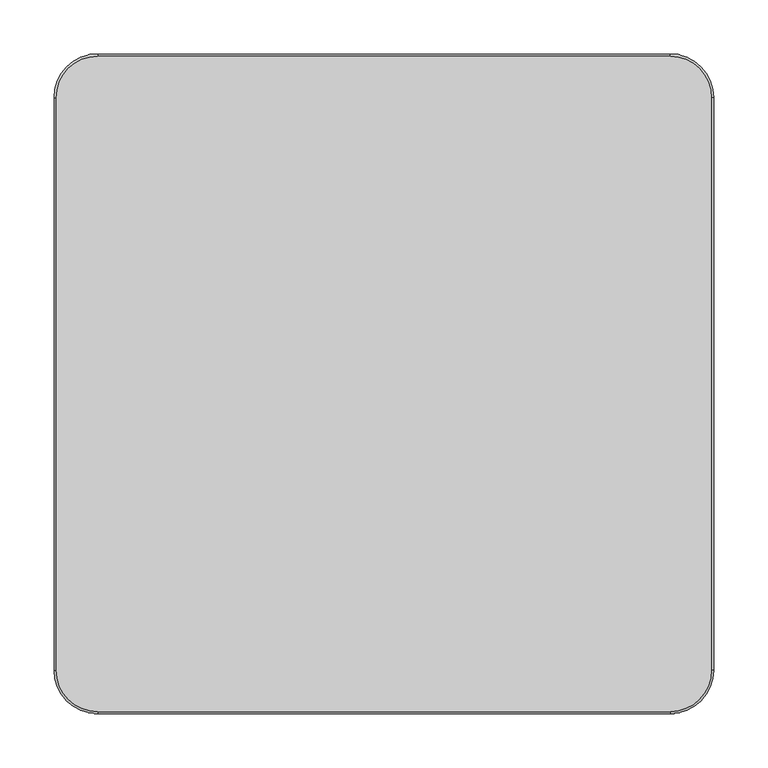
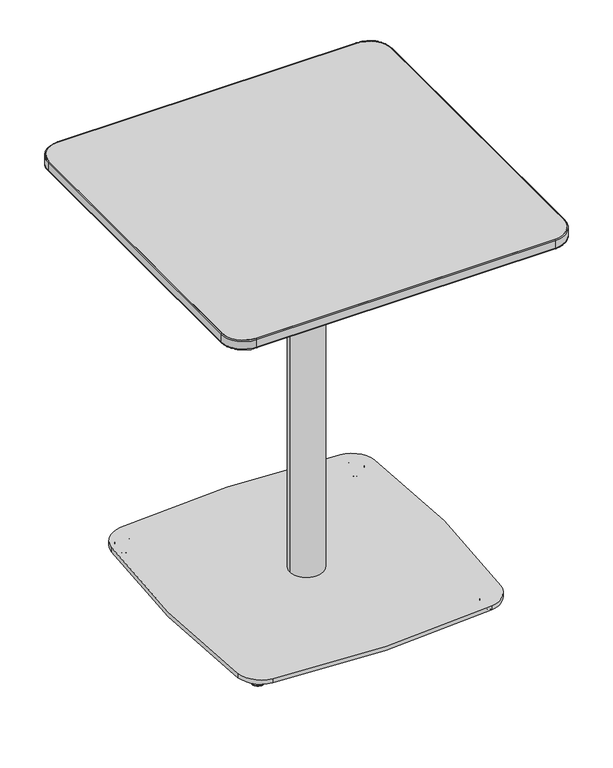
"""IFC4 building model written with IfcOpenShell, lengths in millimetres: furniture geometry, Coalesse_AM_Table_Conference_Montara650_WorkHeight_Square : 24D x 24W."""

from ifc_helpers import new_model, si_unit, point, frame, frame_2d, origin, place, context, project, spatial, polyline, circle_curve, ellipse_curve, trimmed, segment, composite_curve, outline, extrude, source, transform, mapped, element, save
from ifc_brep_helpers import plane_surface, cylinder_surface, revolved_surface, spline_surface, advanced_brep


def furniture_dcd677de(model_context):
    return source(origin(), model_context, "Body", "SolidModel", [
        advanced_brep(
        [(-199.4595416, -196.2537842, 0.0), (-209.8436061, -214.2395115, 0.0), (-204.6515739, -205.2466479, 0.0), (-199.0731063, -195.5844585, 0.5718943), (-210.2300415, -214.9088372, 0.5718943), (-197.4473977, -192.7686487, 11.2068005), (-211.8557501, -217.7246471, 11.2068005), (-197.7408617, -193.2769433, 11.9999882), (-211.5622861, -217.2163525, 11.9999882), (-204.6515739, -205.2466479, 11.9999882)],
        [
            (0, 1, circle_curve(frame((-204.6515739, -205.2466479, 0.0), z_axis=(0.0, 0.0, -1.0), x_axis=(-0.5000000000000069, -0.8660254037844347, 0.0)), 10.3840645)),
            (1, 2),
            (2, 0),
            (1, 0, circle_curve(frame((-204.6515739, -205.2466479, 0.0), z_axis=(0.0, 0.0, -1.0), x_axis=(-0.5000000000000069, -0.8660254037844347, 0.0)), 10.3840645)),
            (3, 4, circle_curve(frame((-204.6515739, -205.2466479, 0.5718943), z_axis=(0.0, 0.0, -1.0), x_axis=(-0.5000000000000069, -0.8660254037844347, 0.0)), 11.1569353)),
            (4, 1, circle_curve(frame((-209.8436061, -214.2395115, 0.8081846), z_axis=(0.8660254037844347, -0.5000000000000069, 0.0), x_axis=(-0.5000000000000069, -0.8660254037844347, 0.0)), 0.8081846)),
            (0, 3, circle_curve(frame((-199.4595416, -196.2537842, 0.8081846), z_axis=(0.866025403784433, -0.5000000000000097, 0.0), x_axis=(0.5000000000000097, 0.866025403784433, 0.0)), 0.8081846)),
            (4, 3, circle_curve(frame((-204.6515739, -205.2466479, 0.5718943), z_axis=(0.0, 0.0, -1.0), x_axis=(-0.5000000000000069, -0.8660254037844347, 0.0)), 11.1569353)),
            (5, 6, circle_curve(frame((-204.6515739, -205.2466479, 11.2068005), z_axis=(0.0, 0.0, -1.0), x_axis=(-0.5000000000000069, -0.8660254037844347, 0.0)), 14.4083524)),
            (6, 4),
            (3, 5),
            (6, 5, circle_curve(frame((-204.6515739, -205.2466479, 11.2068005), z_axis=(0.0, 0.0, -1.0), x_axis=(-0.5000000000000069, -0.8660254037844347, 0.0)), 14.4083524)),
            (7, 8, circle_curve(frame((-204.6515739, -205.2466479, 11.9999882), z_axis=(0.0, 0.0, -1.0), x_axis=(-0.5000000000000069, -0.8660254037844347, 0.0)), 13.8214243)),
            (8, 6, circle_curve(frame((-211.5622861, -217.2163525, 11.3862424), z_axis=(0.8660254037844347, -0.5000000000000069, 0.0), x_axis=(-0.5000000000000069, -0.8660254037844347, 0.0)), 0.6137458)),
            (5, 7, circle_curve(frame((-197.7408617, -193.2769433, 11.3862424), z_axis=(0.866025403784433, -0.5000000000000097, 0.0), x_axis=(0.5000000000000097, 0.866025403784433, 0.0)), 0.6137458)),
            (8, 7, circle_curve(frame((-204.6515739, -205.2466479, 11.9999882), z_axis=(0.0, 0.0, -1.0), x_axis=(-0.5000000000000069, -0.8660254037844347, 0.0)), 13.8214243)),
            (9, 8),
            (7, 9),
        ],
        [
            plane_surface(frame((-204.6515739, -205.2466479, 0.0), z_axis=(0.0, 0.0, -1.0), x_axis=(-0.5000000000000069, -0.8660254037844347, 0.0))),
            revolved_surface(trimmed(ellipse_curve(frame((-209.8436061, -214.2395115, 0.8081846), z_axis=(-0.8660254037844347, 0.5000000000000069, 0.0), x_axis=(-0.5000000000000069, -0.8660254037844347, 0.0)), 0.8081846, 0.8081846), [point((-209.8436061, -214.2395115, 0.0))], [point((-210.2300415, -214.9088372, 0.5718943))], True, "CARTESIAN"), (-204.6515739, -205.2466479, 12.2086845), (0.0, 0.0, 1.0)),
            revolved_surface(polyline([(-210.2300415, -214.9088372, 0.5718943), (-211.8557501, -217.7246471, 11.2068005)]), (-204.6515739, -205.2466479, 12.2086845), (0.0, 0.0, 1.0)),
            revolved_surface(trimmed(ellipse_curve(frame((-211.5622861, -217.2163525, 11.3862424), z_axis=(-0.8660254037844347, 0.5000000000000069, 0.0), x_axis=(-0.5000000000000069, -0.8660254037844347, 0.0)), 0.6137458, 0.6137458), [point((-211.8557501, -217.7246471, 11.2068005))], [point((-211.5622861, -217.2163525, 11.9999882))], True, "CARTESIAN"), (-204.6515739, -205.2466479, 12.2086845), (0.0, 0.0, 1.0)),
            plane_surface(frame((-204.6515739, -205.2466479, 11.9999882), z_axis=(0.0, 0.0, 1.0), x_axis=(-0.5000000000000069, -0.8660254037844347, 0.0))),
        ],
        [
            (0, [[1, 2, 3]]),
            (0, [[4, -3, -2]]),
            (1, [[5, 6, -1, 7]]),
            (1, [[8, -7, -4, -6]]),
            (2, [[9, 10, -5, 11]]),
            (2, [[12, -11, -8, -10]]),
            (3, [[13, 14, -9, 15]]),
            (3, [[16, -15, -12, -14]]),
            (4, [[17, -13, 18]]),
            (4, [[-18, -16, -17]]),
        ],
    ),
        advanced_brep(
        [(204.6515739, -205.2466479, 0.0), (209.8436061, -214.2395115, 0.0), (199.4595416, -196.2537842, 0.0), (210.2300415, -214.9088372, 0.5718943), (199.0731063, -195.5844585, 0.5718943), (211.8557501, -217.7246471, 11.2068005), (197.4473977, -192.7686487, 11.2068005), (211.5622861, -217.2163525, 11.9999882), (197.7408617, -193.2769433, 11.9999882), (204.6515739, -205.2466479, 11.9999882)],
        [
            (0, 1),
            (1, 2, circle_curve(frame((204.6515739, -205.2466479, 0.0), z_axis=(0.0, 0.0, -1.0), x_axis=(0.5000000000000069, -0.8660254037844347, 0.0)), 10.3840645)),
            (2, 0),
            (2, 1, circle_curve(frame((204.6515739, -205.2466479, 0.0), z_axis=(0.0, 0.0, -1.0), x_axis=(0.5000000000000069, -0.8660254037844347, 0.0)), 10.3840645)),
            (1, 3, circle_curve(frame((209.8436061, -214.2395115, 0.8081846), z_axis=(-0.8660254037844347, -0.5000000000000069, 0.0), x_axis=(0.5000000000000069, -0.8660254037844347, 0.0)), 0.8081846)),
            (3, 4, circle_curve(frame((204.6515739, -205.2466479, 0.5718943), z_axis=(0.0, 0.0, -1.0), x_axis=(0.5000000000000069, -0.8660254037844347, 0.0)), 11.1569353)),
            (4, 2, circle_curve(frame((199.4595416, -196.2537842, 0.8081846), z_axis=(-0.866025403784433, -0.5000000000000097, 0.0), x_axis=(-0.5000000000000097, 0.866025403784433, 0.0)), 0.8081846)),
            (4, 3, circle_curve(frame((204.6515739, -205.2466479, 0.5718943), z_axis=(0.0, 0.0, -1.0), x_axis=(0.5000000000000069, -0.8660254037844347, 0.0)), 11.1569353)),
            (3, 5),
            (5, 6, circle_curve(frame((204.6515739, -205.2466479, 11.2068005), z_axis=(0.0, 0.0, -1.0), x_axis=(0.5000000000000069, -0.8660254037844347, 0.0)), 14.4083524)),
            (6, 4),
            (6, 5, circle_curve(frame((204.6515739, -205.2466479, 11.2068005), z_axis=(0.0, 0.0, -1.0), x_axis=(0.5000000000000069, -0.8660254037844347, 0.0)), 14.4083524)),
            (5, 7, circle_curve(frame((211.5622861, -217.2163525, 11.3862424), z_axis=(-0.8660254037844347, -0.5000000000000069, 0.0), x_axis=(0.5000000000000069, -0.8660254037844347, 0.0)), 0.6137458)),
            (7, 8, circle_curve(frame((204.6515739, -205.2466479, 11.9999882), z_axis=(0.0, 0.0, -1.0), x_axis=(0.5000000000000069, -0.8660254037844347, 0.0)), 13.8214243)),
            (8, 6, circle_curve(frame((197.7408617, -193.2769433, 11.3862424), z_axis=(-0.866025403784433, -0.5000000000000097, 0.0), x_axis=(-0.5000000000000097, 0.866025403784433, 0.0)), 0.6137458)),
            (8, 7, circle_curve(frame((204.6515739, -205.2466479, 11.9999882), z_axis=(0.0, 0.0, -1.0), x_axis=(0.5000000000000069, -0.8660254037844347, 0.0)), 13.8214243)),
            (7, 9),
            (9, 8),
        ],
        [
            plane_surface(frame((204.6515739, -205.2466479, 0.0), z_axis=(0.0, 0.0, -1.0), x_axis=(0.5000000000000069, -0.8660254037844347, 0.0))),
            revolved_surface(trimmed(ellipse_curve(frame((209.8436061, -214.2395115, 0.8081846), z_axis=(0.8660254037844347, 0.5000000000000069, 0.0), x_axis=(0.5000000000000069, -0.8660254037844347, 0.0)), 0.8081846, 0.8081846), [point((210.2300415, -214.9088372, 0.5718943))], [point((209.8436061, -214.2395115, 0.0))], True, "CARTESIAN"), (204.6515739, -205.2466479, 12.2086845), (0.0, 0.0, -1.0)),
            revolved_surface(polyline([(211.8557501, -217.7246471, 11.2068005), (210.2300415, -214.9088372, 0.5718943)]), (204.6515739, -205.2466479, 12.2086845), (0.0, 0.0, -1.0)),
            revolved_surface(trimmed(ellipse_curve(frame((211.5622861, -217.2163525, 11.3862424), z_axis=(0.8660254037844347, 0.5000000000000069, 0.0), x_axis=(0.5000000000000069, -0.8660254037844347, 0.0)), 0.6137458, 0.6137458), [point((211.5622861, -217.2163525, 11.9999882))], [point((211.8557501, -217.7246471, 11.2068005))], True, "CARTESIAN"), (204.6515739, -205.2466479, 12.2086845), (0.0, 0.0, -1.0)),
            plane_surface(frame((204.6515739, -205.2466479, 11.9999882), z_axis=(0.0, 0.0, 1.0), x_axis=(0.5000000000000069, -0.8660254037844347, 0.0))),
        ],
        [
            (0, [[1, 2, 3]]),
            (0, [[-3, 4, -1]]),
            (1, [[-2, 5, 6, 7]]),
            (1, [[-4, -7, 8, -5]]),
            (2, [[-6, 9, 10, 11]]),
            (2, [[-8, -11, 12, -9]]),
            (3, [[-10, 13, 14, 15]]),
            (3, [[-12, -15, 16, -13]]),
            (4, [[-14, 17, 18]]),
            (4, [[-16, -18, -17]]),
        ],
    ),
        advanced_brep(
        [(199.4595416, 196.2537842, 0.0), (209.8436061, 214.2395115, 0.0), (204.6515739, 205.2466479, 0.0), (199.0731063, 195.5844585, 0.5718943), (210.2300415, 214.9088372, 0.5718943), (197.4473977, 192.7686487, 11.2068005), (211.8557501, 217.7246471, 11.2068005), (197.7408617, 193.2769433, 11.9999882), (211.5622861, 217.2163525, 11.9999882), (204.6515739, 205.2466479, 11.9999882)],
        [
            (0, 1, circle_curve(frame((204.6515739, 205.2466479, 0.0), z_axis=(0.0, 0.0, -1.0), x_axis=(0.5000000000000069, 0.8660254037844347, 0.0)), 10.3840645)),
            (1, 2),
            (2, 0),
            (1, 0, circle_curve(frame((204.6515739, 205.2466479, 0.0), z_axis=(0.0, 0.0, -1.0), x_axis=(0.5000000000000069, 0.8660254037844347, 0.0)), 10.3840645)),
            (3, 4, circle_curve(frame((204.6515739, 205.2466479, 0.5718943), z_axis=(0.0, 0.0, -1.0), x_axis=(0.5000000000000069, 0.8660254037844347, 0.0)), 11.1569353)),
            (4, 1, circle_curve(frame((209.8436061, 214.2395115, 0.8081846), z_axis=(-0.8660254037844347, 0.5000000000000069, 0.0), x_axis=(0.5000000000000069, 0.8660254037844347, 0.0)), 0.8081846)),
            (0, 3, circle_curve(frame((199.4595416, 196.2537842, 0.8081846), z_axis=(-0.866025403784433, 0.5000000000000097, 0.0), x_axis=(-0.5000000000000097, -0.866025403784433, 0.0)), 0.8081846)),
            (4, 3, circle_curve(frame((204.6515739, 205.2466479, 0.5718943), z_axis=(0.0, 0.0, -1.0), x_axis=(0.5000000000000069, 0.8660254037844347, 0.0)), 11.1569353)),
            (5, 6, circle_curve(frame((204.6515739, 205.2466479, 11.2068005), z_axis=(0.0, 0.0, -1.0), x_axis=(0.5000000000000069, 0.8660254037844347, 0.0)), 14.4083524)),
            (6, 4),
            (3, 5),
            (6, 5, circle_curve(frame((204.6515739, 205.2466479, 11.2068005), z_axis=(0.0, 0.0, -1.0), x_axis=(0.5000000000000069, 0.8660254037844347, 0.0)), 14.4083524)),
            (7, 8, circle_curve(frame((204.6515739, 205.2466479, 11.9999882), z_axis=(0.0, 0.0, -1.0), x_axis=(0.5000000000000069, 0.8660254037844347, 0.0)), 13.8214243)),
            (8, 6, circle_curve(frame((211.5622861, 217.2163525, 11.3862424), z_axis=(-0.8660254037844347, 0.5000000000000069, 0.0), x_axis=(0.5000000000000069, 0.8660254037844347, 0.0)), 0.6137458)),
            (5, 7, circle_curve(frame((197.7408617, 193.2769433, 11.3862424), z_axis=(-0.866025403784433, 0.5000000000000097, 0.0), x_axis=(-0.5000000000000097, -0.866025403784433, 0.0)), 0.6137458)),
            (8, 7, circle_curve(frame((204.6515739, 205.2466479, 11.9999882), z_axis=(0.0, 0.0, -1.0), x_axis=(0.5000000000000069, 0.8660254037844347, 0.0)), 13.8214243)),
            (9, 8),
            (7, 9),
        ],
        [
            plane_surface(frame((204.6515739, 205.2466479, 0.0), z_axis=(0.0, 0.0, -1.0), x_axis=(0.5000000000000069, 0.8660254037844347, 0.0))),
            revolved_surface(trimmed(ellipse_curve(frame((209.8436061, 214.2395115, 0.8081846), z_axis=(0.8660254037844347, -0.5000000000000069, 0.0), x_axis=(0.5000000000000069, 0.8660254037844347, 0.0)), 0.8081846, 0.8081846), [point((209.8436061, 214.2395115, 0.0))], [point((210.2300415, 214.9088372, 0.5718943))], True, "CARTESIAN"), (204.6515739, 205.2466479, 12.2086845), (0.0, 0.0, 1.0)),
            revolved_surface(polyline([(210.2300415, 214.9088372, 0.5718943), (211.8557501, 217.7246471, 11.2068005)]), (204.6515739, 205.2466479, 12.2086845), (0.0, 0.0, 1.0)),
            revolved_surface(trimmed(ellipse_curve(frame((211.5622861, 217.2163525, 11.3862424), z_axis=(0.8660254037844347, -0.5000000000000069, 0.0), x_axis=(0.5000000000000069, 0.8660254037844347, 0.0)), 0.6137458, 0.6137458), [point((211.8557501, 217.7246471, 11.2068005))], [point((211.5622861, 217.2163525, 11.9999882))], True, "CARTESIAN"), (204.6515739, 205.2466479, 12.2086845), (0.0, 0.0, 1.0)),
            plane_surface(frame((204.6515739, 205.2466479, 11.9999882), z_axis=(0.0, 0.0, 1.0), x_axis=(0.5000000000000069, 0.8660254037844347, 0.0))),
        ],
        [
            (0, [[1, 2, 3]]),
            (0, [[4, -3, -2]]),
            (1, [[5, 6, -1, 7]]),
            (1, [[8, -7, -4, -6]]),
            (2, [[9, 10, -5, 11]]),
            (2, [[12, -11, -8, -10]]),
            (3, [[13, 14, -9, 15]]),
            (3, [[16, -15, -12, -14]]),
            (4, [[17, -13, 18]]),
            (4, [[-18, -16, -17]]),
        ],
    ),
        extrude(outline(composite_curve([segment(trimmed(circle_curve(frame_2d((189.3188482, 188.9781952)), 44.45), [point((194.4241587, 233.1340363))], [point((233.4709717, 194.115557))], False, "CARTESIAN"), True, "CONTINUOUS"), segment(trimmed(circle_curve(frame_2d((-1397.5488879, 4.3367087)), 1642.0236885), [point((233.4709717, 194.115557))], [point((232.4883748, -193.704489))], False, "CARTESIAN"), True, "CONTINUOUS"), segment(trimmed(circle_curve(frame_2d((188.3628504, -188.3434633)), 44.45), [point((232.4883748, -193.704489))], [point((193.9003311, -232.4471911))], False, "CARTESIAN"), True, "CONTINUOUS"), segment(trimmed(circle_curve(frame_2d((-4.3367152, 1346.4283112)), 1591.2717488), [point((193.9003311, -232.4471911))], [point((-194.577927, -233.4305622))], False, "CARTESIAN"), True, "CONTINUOUS"), segment(trimmed(circle_curve(frame_2d((-189.263799, -189.2993652)), 44.45), [point((-194.577927, -233.4305622))], [point((-233.438325, -194.2403925))], False, "CARTESIAN"), True, "CONTINUOUS"), segment(trimmed(circle_curve(frame_2d((1503.1397991, 5.89e-05)), 1747.4074894), [point((-233.438325, -194.2403925))], [point((-233.4410299, 194.2163254))], False, "CARTESIAN"), True, "CONTINUOUS"), segment(trimmed(circle_curve(frame_2d((-189.2664351, 189.2759133)), 44.45), [point((-233.4410299, 194.2163254))], [point((-194.3022914, 233.4397294))], False, "CARTESIAN"), True, "CONTINUOUS"), segment(trimmed(circle_curve(frame_2d((-1.2702107, -1459.4269529)), 1703.8365498), [point((-194.3022914, 233.4397294))], [point((194.4241587, 233.1340363))], False, "CARTESIAN"), True, "CONTINUOUS")], self_intersect=False)), frame((0.0, 0.0, 11.999986), z_axis=(0.0, 0.0, 1.0), x_axis=(1.0, 0.0, 0.0)), (0.0, 0.0, 1.0), 8.0000105),
        advanced_brep(
        [(-204.6515739, 205.2466479, 0.0), (-209.8436061, 214.2395115, 0.0), (-199.4595416, 196.2537842, 0.0), (-210.2300415, 214.9088372, 0.5718943), (-199.0731063, 195.5844585, 0.5718943), (-211.8557501, 217.7246471, 11.2068005), (-197.4473977, 192.7686487, 11.2068005), (-211.5622861, 217.2163525, 11.9999882), (-197.7408617, 193.2769433, 11.9999882), (-204.6515739, 205.2466479, 11.9999882)],
        [
            (0, 1),
            (1, 2, circle_curve(frame((-204.6515739, 205.2466479, 0.0), z_axis=(0.0, 0.0, -1.0), x_axis=(-0.5000000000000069, 0.8660254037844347, 0.0)), 10.3840645)),
            (2, 0),
            (2, 1, circle_curve(frame((-204.6515739, 205.2466479, 0.0), z_axis=(0.0, 0.0, -1.0), x_axis=(-0.5000000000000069, 0.8660254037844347, 0.0)), 10.3840645)),
            (1, 3, circle_curve(frame((-209.8436061, 214.2395115, 0.8081846), z_axis=(0.8660254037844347, 0.5000000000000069, 0.0), x_axis=(-0.5000000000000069, 0.8660254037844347, 0.0)), 0.8081846)),
            (3, 4, circle_curve(frame((-204.6515739, 205.2466479, 0.5718943), z_axis=(0.0, 0.0, -1.0), x_axis=(-0.5000000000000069, 0.8660254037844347, 0.0)), 11.1569353)),
            (4, 2, circle_curve(frame((-199.4595416, 196.2537842, 0.8081846), z_axis=(0.866025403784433, 0.5000000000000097, 0.0), x_axis=(0.5000000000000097, -0.866025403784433, 0.0)), 0.8081846)),
            (4, 3, circle_curve(frame((-204.6515739, 205.2466479, 0.5718943), z_axis=(0.0, 0.0, -1.0), x_axis=(-0.5000000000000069, 0.8660254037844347, 0.0)), 11.1569353)),
            (3, 5),
            (5, 6, circle_curve(frame((-204.6515739, 205.2466479, 11.2068005), z_axis=(0.0, 0.0, -1.0), x_axis=(-0.5000000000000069, 0.8660254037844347, 0.0)), 14.4083524)),
            (6, 4),
            (6, 5, circle_curve(frame((-204.6515739, 205.2466479, 11.2068005), z_axis=(0.0, 0.0, -1.0), x_axis=(-0.5000000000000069, 0.8660254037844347, 0.0)), 14.4083524)),
            (5, 7, circle_curve(frame((-211.5622861, 217.2163525, 11.3862424), z_axis=(0.8660254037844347, 0.5000000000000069, 0.0), x_axis=(-0.5000000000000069, 0.8660254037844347, 0.0)), 0.6137458)),
            (7, 8, circle_curve(frame((-204.6515739, 205.2466479, 11.9999882), z_axis=(0.0, 0.0, -1.0), x_axis=(-0.5000000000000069, 0.8660254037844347, 0.0)), 13.8214243)),
            (8, 6, circle_curve(frame((-197.7408617, 193.2769433, 11.3862424), z_axis=(0.866025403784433, 0.5000000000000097, 0.0), x_axis=(0.5000000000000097, -0.866025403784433, 0.0)), 0.6137458)),
            (8, 7, circle_curve(frame((-204.6515739, 205.2466479, 11.9999882), z_axis=(0.0, 0.0, -1.0), x_axis=(-0.5000000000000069, 0.8660254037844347, 0.0)), 13.8214243)),
            (7, 9),
            (9, 8),
        ],
        [
            plane_surface(frame((-204.6515739, 205.2466479, 0.0), z_axis=(0.0, 0.0, -1.0), x_axis=(-0.5000000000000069, 0.8660254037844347, 0.0))),
            revolved_surface(trimmed(ellipse_curve(frame((-209.8436061, 214.2395115, 0.8081846), z_axis=(-0.8660254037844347, -0.5000000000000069, 0.0), x_axis=(-0.5000000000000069, 0.8660254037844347, 0.0)), 0.8081846, 0.8081846), [point((-210.2300415, 214.9088372, 0.5718943))], [point((-209.8436061, 214.2395115, 0.0))], True, "CARTESIAN"), (-204.6515739, 205.2466479, 12.2086845), (0.0, 0.0, -1.0)),
            revolved_surface(polyline([(-211.8557501, 217.7246471, 11.2068005), (-210.2300415, 214.9088372, 0.5718943)]), (-204.6515739, 205.2466479, 12.2086845), (0.0, 0.0, -1.0)),
            revolved_surface(trimmed(ellipse_curve(frame((-211.5622861, 217.2163525, 11.3862424), z_axis=(-0.8660254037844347, -0.5000000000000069, 0.0), x_axis=(-0.5000000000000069, 0.8660254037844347, 0.0)), 0.6137458, 0.6137458), [point((-211.5622861, 217.2163525, 11.9999882))], [point((-211.8557501, 217.7246471, 11.2068005))], True, "CARTESIAN"), (-204.6515739, 205.2466479, 12.2086845), (0.0, 0.0, -1.0)),
            plane_surface(frame((-204.6515739, 205.2466479, 11.9999882), z_axis=(0.0, 0.0, 1.0), x_axis=(-0.5000000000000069, 0.8660254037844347, 0.0))),
        ],
        [
            (0, [[1, 2, 3]]),
            (0, [[-3, 4, -1]]),
            (1, [[-2, 5, 6, 7]]),
            (1, [[-4, -7, 8, -5]]),
            (2, [[-6, 9, 10, 11]]),
            (2, [[-8, -11, 12, -9]]),
            (3, [[-10, 13, 14, 15]]),
            (3, [[-12, -15, 16, -13]]),
            (4, [[-14, 17, 18]]),
            (4, [[-16, -18, -17]]),
        ],
    ),
        advanced_brep(
        [(239.8626362, 239.8635082, 693.930027), (239.8626362, -239.8635082, 693.930027), (-239.8626362, -239.8635082, 693.930027), (-239.8626362, 239.8635082, 693.930027), (264.588625, 302.768, 706.195891), (-264.588625, 302.768, 706.195891), (-302.688625, 264.668, 706.195891), (-302.688625, -264.668, 706.195891), (-264.588625, -302.768, 706.195891), (264.588625, -302.768, 706.195891), (302.688625, -264.668, 706.195891), (302.688625, 264.668, 706.195891)],
        [
            (0, 1),
            (1, 2),
            (2, 3),
            (3, 0),
            (4, 5),
            (5, 6, circle_curve(frame((-264.588625, 264.668, 706.195891), z_axis=(0.0, 0.0, 1.0), x_axis=(1.0, 0.0, 0.0)), 38.1)),
            (6, 7),
            (7, 8, circle_curve(frame((-264.588625, -264.668, 706.195891), z_axis=(0.0, 0.0, 1.0), x_axis=(1.0, 0.0, 0.0)), 38.1)),
            (8, 9),
            (9, 10, circle_curve(frame((264.588625, -264.668, 706.195891), z_axis=(0.0, 0.0, 1.0), x_axis=(1.0, 0.0, 0.0)), 38.1)),
            (10, 11),
            (11, 4, circle_curve(frame((264.588625, 264.668, 706.195891), z_axis=(0.0, 0.0, 1.0), x_axis=(1.0, 0.0, 0.0)), 38.1)),
            (11, 0),
            (0, 4),
            (10, 1),
            (9, 1),
            (8, 2),
            (7, 2),
            (6, 3),
            (5, 3),
        ],
        [
            plane_surface(frame((0.0, 0.0, 693.930027), z_axis=(0.0, 0.0, -1.0), x_axis=(-1.0, 0.0, 0.0))),
            plane_surface(frame((0.0, 0.0, 706.195891), z_axis=(0.0, 0.0, 1.0), x_axis=(-1.0, 0.0, 0.0))),
            spline_surface(2, 1, [[(264.588625, 302.768, 706.195891), (239.8626362, 239.8635082, 693.930027)], [(302.68862499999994, 302.7679999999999, 706.195891), (239.8626362, 239.8635082, 693.930027)], [(302.688625, 264.668, 706.195891), (239.8626362, 239.8635082, 693.930027)]], [3, 3], [2, 2], [0.0, 1.0], [0.0, 1.0], weights=[[1.0, 1.0], [0.7071067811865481, 0.7071067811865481], [1.0, 1.0]]),
            plane_surface(frame((302.688625, 0.0, 706.195891), z_axis=(0.19161772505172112, 0.0, -0.9814696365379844), x_axis=(0.0, -1.0, 0.0))),
            spline_surface(2, 1, [[(302.688625, -264.668, 706.195891), (239.8626362, -239.8635082, 693.930027)], [(302.68862500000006, -302.76800000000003, 706.195891), (239.8626362, -239.8635082, 693.930027)], [(264.588625, -302.768, 706.195891), (239.8626362, -239.8635082, 693.930027)]], [3, 3], [2, 2], [0.0, 1.0], [0.0, 1.0], weights=[[1.0, 1.0], [0.707106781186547, 0.707106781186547], [1.0, 1.0]]),
            plane_surface(frame((0.0, -302.768, 706.195891), z_axis=(0.0, -0.19138735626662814, -0.9815145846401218), x_axis=(-1.0, 0.0, 0.0))),
            spline_surface(2, 1, [[(-264.588625, -302.768, 706.195891), (-239.8626362, -239.8635082, 693.930027)], [(-302.68862499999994, -302.7679999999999, 706.195891), (-239.8626362, -239.8635082, 693.930027)], [(-302.688625, -264.668, 706.195891), (-239.8626362, -239.8635082, 693.930027)]], [3, 3], [2, 2], [0.0, 1.0], [0.0, 1.0], weights=[[1.0, 1.0], [0.7071067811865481, 0.7071067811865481], [1.0, 1.0]]),
            plane_surface(frame((-302.688625, 0.0, 706.195891), z_axis=(-0.19161772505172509, 0.0, -0.9814696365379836), x_axis=(0.0, 1.0, 0.0))),
            spline_surface(2, 1, [[(-302.688625, 264.668, 706.195891), (-239.8626362, 239.8635082, 693.930027)], [(-302.68862500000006, 302.76800000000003, 706.195891), (-239.8626362, 239.8635082, 693.930027)], [(-264.588625, 302.768, 706.195891), (-239.8626362, 239.8635082, 693.930027)]], [3, 3], [2, 2], [0.0, 1.0], [0.0, 1.0], weights=[[1.0, 1.0], [0.707106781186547, 0.707106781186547], [1.0, 1.0]]),
            plane_surface(frame((0.0, 302.768, 706.195891), z_axis=(0.0, 0.19138735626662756, -0.981514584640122), x_axis=(1.0, 0.0, 0.0))),
        ],
        [
            (0, [[1, 2, 3, 4]]),
            (1, [[5, 6, 7, 8, 9, 10, 11, 12]]),
            (2, [[-12, 13, 14]]),
            (3, [[-11, 15, -1, -13]]),
            (4, [[-10, 16, -15]]),
            (5, [[-9, 17, -2, -16]]),
            (6, [[-8, 18, -17]]),
            (7, [[-7, 19, -3, -18]]),
            (8, [[-6, 20, -19]]),
            (9, [[-5, -14, -4, -20]]),
        ],
    ),
        extrude(outline(composite_curve([segment(trimmed(circle_curve(frame_2d((264.588625, 264.668)), 38.1), [point((264.588625, 302.768))], [point((302.688625, 264.668))], False, "CARTESIAN"), True, "CONTINUOUS"), segment(polyline([(302.688625, 264.668), (302.688625, -264.668)]), True, "CONTINUOUS"), segment(trimmed(circle_curve(frame_2d((264.588625, -264.668)), 38.1), [point((302.688625, -264.668))], [point((264.588625, -302.768))], False, "CARTESIAN"), True, "CONTINUOUS"), segment(polyline([(264.588625, -302.768), (-264.588625, -302.768)]), True, "CONTINUOUS"), segment(trimmed(circle_curve(frame_2d((-264.588625, -264.668)), 38.1), [point((-264.588625, -302.768))], [point((-302.688625, -264.668))], False, "CARTESIAN"), True, "CONTINUOUS"), segment(polyline([(-302.688625, -264.668), (-302.688625, 264.668)]), True, "CONTINUOUS"), segment(trimmed(circle_curve(frame_2d((-264.588625, 264.668)), 38.1), [point((-302.688625, 264.668))], [point((-264.588625, 302.768))], False, "CARTESIAN"), True, "CONTINUOUS"), segment(polyline([(-264.588625, 302.768), (264.588625, 302.768)]), True, "CONTINUOUS")], self_intersect=False)), frame((0.0, 0.0, 706.195891), z_axis=(0.0, 0.0, 1.0), x_axis=(1.0, 0.0, 0.0)), (0.0, 0.0, 1.0), 17.704109),
        advanced_brep(
        [(-304.7644915, 264.668, 708.1278467), (-264.588625, 304.8438665, 708.1278467), (-264.588625, 302.768, 706.195891), (-302.688625, 264.668, 706.195891), (-304.7644915, 264.668, 721.8999283), (-264.588625, 304.8438665, 721.8999283), (-302.688625, 264.668, 723.9), (-264.588625, 302.768, 723.9), (-302.688625, -264.668, 706.195891), (-304.7644915, -264.668, 708.1278467), (-304.7644915, -264.668, 721.8999283), (-302.688625, -264.668, 723.9), (-264.588625, -304.8438665, 708.1278467), (-264.588625, -302.768, 706.195891), (-264.588625, -304.8438665, 721.8999283), (-264.588625, -302.768, 723.9), (264.588625, -302.768, 706.195891), (264.588625, -304.8438665, 708.1278467), (264.588625, -304.8438665, 721.8999283), (264.588625, -302.768, 723.9), (304.7644915, -264.668, 708.1278467), (302.688625, -264.668, 706.195891), (304.7644915, -264.668, 721.8999283), (302.688625, -264.668, 723.9), (302.688625, 264.668, 706.195891), (304.7644915, 264.668, 708.1278467), (304.7644915, 264.668, 721.8999283), (302.688625, 264.668, 723.9), (264.588625, 304.8438665, 708.1278467), (264.588625, 302.768, 706.195891), (264.588625, 304.8438665, 721.8999283), (264.588625, 302.768, 723.9)],
        [
            (0, 1, circle_curve(frame((-264.588625, 264.668, 708.1278467), z_axis=(0.0, 0.0, -1.0), x_axis=(0.0, 1.0, 0.0)), 40.1758665)),
            (1, 2, circle_curve(frame((-264.588625, 302.9069224, 708.1278467), z_axis=(-1.0, 0.0, 0.0), x_axis=(0.0, -1.0, 0.0)), 1.9369441)),
            (2, 3, circle_curve(frame((-264.588625, 264.668, 706.195891), z_axis=(0.0, 0.0, 1.0), x_axis=(0.0, 1.0, 0.0)), 38.1)),
            (3, 0, circle_curve(frame((-302.8275474, 264.668, 708.1278467), z_axis=(0.0, 1.0, 0.0), x_axis=(1.0, 0.0, 0.0)), 1.9369441)),
            (4, 5, circle_curve(frame((-264.588625, 264.668, 721.8999283), z_axis=(0.0, 0.0, -1.0), x_axis=(0.0, 1.0, 0.0)), 40.1758665)),
            (5, 1),
            (0, 4),
            (6, 7, circle_curve(frame((-264.588625, 264.668, 723.9), z_axis=(0.0, 0.0, -1.0), x_axis=(0.0, 1.0, 0.0)), 38.1)),
            (7, 5, circle_curve(frame((-264.588625, 302.8424111, 721.8999283), z_axis=(-1.0, 0.0, 0.0), x_axis=(0.0, -1.0, 0.0)), 2.0014554)),
            (4, 6, circle_curve(frame((-302.7630361, 264.668, 721.8999283), z_axis=(0.0, 1.0, 0.0), x_axis=(1.0, 0.0, 0.0)), 2.0014554)),
            (2, 7),
            (6, 3),
            (3, 8),
            (8, 9, circle_curve(frame((-302.8275474, -264.668, 708.1278467), z_axis=(0.0, 1.0, 0.0), x_axis=(1.0, 0.0, 0.0)), 1.9369441)),
            (9, 0),
            (9, 10),
            (10, 4),
            (10, 11, circle_curve(frame((-302.7630361, -264.668, 721.8999283), z_axis=(0.0, 1.0, 0.0), x_axis=(1.0, 0.0, 0.0)), 2.0014554)),
            (11, 6),
            (11, 8),
            (12, 9, circle_curve(frame((-264.588625, -264.668, 708.1278467), z_axis=(0.0, 0.0, -1.0), x_axis=(-1.0, 0.0, 0.0)), 40.1758665)),
            (8, 13, circle_curve(frame((-264.588625, -264.668, 706.195891), z_axis=(0.0, 0.0, 1.0), x_axis=(-1.0, 0.0, 0.0)), 38.1)),
            (13, 12, circle_curve(frame((-264.588625, -302.9069224, 708.1278467), z_axis=(-1.0, 0.0, 0.0), x_axis=(0.0, 1.0, 0.0)), 1.9369441)),
            (14, 10, circle_curve(frame((-264.588625, -264.668, 721.8999283), z_axis=(0.0, 0.0, -1.0), x_axis=(-1.0, 0.0, 0.0)), 40.1758665)),
            (12, 14),
            (15, 11, circle_curve(frame((-264.588625, -264.668, 723.9), z_axis=(0.0, 0.0, -1.0), x_axis=(-1.0, 0.0, 0.0)), 38.1)),
            (14, 15, circle_curve(frame((-264.588625, -302.8424111, 721.8999283), z_axis=(-1.0, 0.0, 0.0), x_axis=(0.0, 1.0, 0.0)), 2.0014554)),
            (15, 13),
            (13, 16),
            (16, 17, circle_curve(frame((264.588625, -302.9069224, 708.1278467), z_axis=(-1.0, 0.0, 0.0), x_axis=(0.0, 1.0, 0.0)), 1.9369441)),
            (17, 12),
            (17, 18),
            (18, 14),
            (18, 19, circle_curve(frame((264.588625, -302.8424111, 721.8999283), z_axis=(-1.0, 0.0, 0.0), x_axis=(0.0, 1.0, 0.0)), 2.0014554)),
            (19, 15),
            (19, 16),
            (20, 17, circle_curve(frame((264.588625, -264.668, 708.1278467), z_axis=(0.0, 0.0, -1.0), x_axis=(0.0, -1.0, 0.0)), 40.1758665)),
            (16, 21, circle_curve(frame((264.588625, -264.668, 706.195891), z_axis=(0.0, 0.0, 1.0), x_axis=(0.0, -1.0, 0.0)), 38.1)),
            (21, 20, circle_curve(frame((302.8275474, -264.668, 708.1278467), z_axis=(0.0, -1.0, 0.0), x_axis=(-1.0, 0.0, 0.0)), 1.9369441)),
            (22, 18, circle_curve(frame((264.588625, -264.668, 721.8999283), z_axis=(0.0, 0.0, -1.0), x_axis=(0.0, -1.0, 0.0)), 40.1758665)),
            (20, 22),
            (23, 19, circle_curve(frame((264.588625, -264.668, 723.9), z_axis=(0.0, 0.0, -1.0), x_axis=(0.0, -1.0, 0.0)), 38.1)),
            (22, 23, circle_curve(frame((302.7630361, -264.668, 721.8999283), z_axis=(0.0, -1.0, 0.0), x_axis=(-1.0, 0.0, 0.0)), 2.0014554)),
            (23, 21),
            (21, 24),
            (24, 25, circle_curve(frame((302.8275474, 264.668, 708.1278467), z_axis=(0.0, -1.0, 0.0), x_axis=(-1.0, 0.0, 0.0)), 1.9369441)),
            (25, 20),
            (25, 26),
            (26, 22),
            (26, 27, circle_curve(frame((302.7630361, 264.668, 721.8999283), z_axis=(0.0, -1.0, 0.0), x_axis=(-1.0, 0.0, 0.0)), 2.0014554)),
            (27, 23),
            (27, 24),
            (28, 25, circle_curve(frame((264.588625, 264.668, 708.1278467), z_axis=(0.0, 0.0, -1.0), x_axis=(1.0, 0.0, 0.0)), 40.1758665)),
            (24, 29, circle_curve(frame((264.588625, 264.668, 706.195891), z_axis=(0.0, 0.0, 1.0), x_axis=(1.0, 0.0, 0.0)), 38.1)),
            (29, 28, circle_curve(frame((264.588625, 302.9069224, 708.1278467), z_axis=(1.0, 0.0, 0.0), x_axis=(0.0, -1.0, 0.0)), 1.9369441)),
            (30, 26, circle_curve(frame((264.588625, 264.668, 721.8999283), z_axis=(0.0, 0.0, -1.0), x_axis=(1.0, 0.0, 0.0)), 40.1758665)),
            (28, 30),
            (31, 27, circle_curve(frame((264.588625, 264.668, 723.9), z_axis=(0.0, 0.0, -1.0), x_axis=(1.0, 0.0, 0.0)), 38.1)),
            (30, 31, circle_curve(frame((264.588625, 302.8424111, 721.8999283), z_axis=(1.0, 0.0, 0.0), x_axis=(0.0, -1.0, 0.0)), 2.0014554)),
            (31, 29),
            (29, 2),
            (1, 28),
            (5, 30),
            (7, 31),
        ],
        [
            revolved_surface(trimmed(ellipse_curve(frame((-264.588625, 302.9069224, 708.1278467), z_axis=(1.0, 0.0, 0.0), x_axis=(0.0, -1.0, 0.0)), 1.9369441, 1.9369441), [point((-264.588625, 302.768, 706.195891))], [point((-264.588625, 304.8438665, 708.1278467))], True, "CARTESIAN"), (-264.588625, 264.668, 0.0), (0.0, 0.0, 1.0)),
            cylinder_surface(frame((-264.588625, 264.668, 0.0), z_axis=(0.0, 0.0, 1.0), x_axis=(0.0, 1.0, 0.0)), 40.1758665),
            revolved_surface(trimmed(ellipse_curve(frame((-264.588625, 302.8424111, 721.8999283), z_axis=(1.0, 0.0, 0.0), x_axis=(0.0, -1.0, 0.0)), 2.0014554, 2.0014554), [point((-264.588625, 304.8438665, 721.8999283))], [point((-264.588625, 302.768, 723.9))], True, "CARTESIAN"), (-264.588625, 264.668, 0.0), (0.0, 0.0, 1.0)),
            revolved_surface(polyline([(-264.588625, 302.76800000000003, 723.9), (-264.588625, 302.76800000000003, 706.195891)]), (-264.588625, 264.668, 0.0), (0.0, 0.0, 1.0)),
            cylinder_surface(frame((-302.8275474, 264.668, 708.1278467), z_axis=(0.0, 1.0, 0.0), x_axis=(1.0, 0.0, 0.0)), 1.9369441),
            plane_surface(frame((-304.7644915, 264.668, 708.1278467), z_axis=(-1.0, 0.0, 0.0), x_axis=(0.0, -1.0, 0.0))),
            cylinder_surface(frame((-302.7630361, 264.668, 721.8999283), z_axis=(0.0, 1.0, 0.0), x_axis=(1.0, 0.0, 0.0)), 2.0014554),
            plane_surface(frame((-302.688625, 264.668, 723.9), z_axis=(1.0, 0.0, 0.0), x_axis=(0.0, -1.0, 0.0))),
            revolved_surface(trimmed(ellipse_curve(frame((-302.8275474, -264.668, 708.1278467), z_axis=(0.0, 1.0, 0.0), x_axis=(1.0, 0.0, 0.0)), 1.9369441, 1.9369441), [point((-302.688625, -264.668, 706.195891))], [point((-304.7644915, -264.668, 708.1278467))], True, "CARTESIAN"), (-264.588625, -264.668, 0.0), (0.0, 0.0, 1.0)),
            cylinder_surface(frame((-264.588625, -264.668, 0.0), z_axis=(0.0, 0.0, 1.0), x_axis=(-1.0, 0.0, 0.0)), 40.1758665),
            revolved_surface(trimmed(ellipse_curve(frame((-302.7630361, -264.668, 721.8999283), z_axis=(0.0, 1.0, 0.0), x_axis=(1.0, 0.0, 0.0)), 2.0014554, 2.0014554), [point((-304.7644915, -264.668, 721.8999283))], [point((-302.688625, -264.668, 723.9))], True, "CARTESIAN"), (-264.588625, -264.668, 0.0), (0.0, 0.0, 1.0)),
            revolved_surface(polyline([(-302.688625, -264.668, 723.9), (-302.688625, -264.668, 706.195891)]), (-264.588625, -264.668, 0.0), (0.0, 0.0, 1.0)),
            cylinder_surface(frame((-264.588625, -302.9069224, 708.1278467), z_axis=(-1.0, 0.0, 0.0), x_axis=(0.0, 1.0, 0.0)), 1.9369441),
            plane_surface(frame((-264.588625, -304.8438665, 708.1278467), z_axis=(0.0, -1.0, 0.0), x_axis=(1.0, 0.0, 0.0))),
            cylinder_surface(frame((-264.588625, -302.8424111, 721.8999283), z_axis=(-1.0, 0.0, 0.0), x_axis=(0.0, 1.0, 0.0)), 2.0014554),
            plane_surface(frame((-264.588625, -302.768, 723.9), z_axis=(0.0, 1.0, 0.0), x_axis=(1.0, 0.0, 0.0))),
            revolved_surface(trimmed(ellipse_curve(frame((264.588625, -302.9069224, 708.1278467), z_axis=(-1.0, 0.0, 0.0), x_axis=(0.0, 1.0, 0.0)), 1.9369441, 1.9369441), [point((264.588625, -302.768, 706.195891))], [point((264.588625, -304.8438665, 708.1278467))], True, "CARTESIAN"), (264.588625, -264.668, 0.0), (0.0, 0.0, 1.0)),
            cylinder_surface(frame((264.588625, -264.668, 0.0), z_axis=(0.0, 0.0, 1.0), x_axis=(0.0, -1.0, 0.0)), 40.1758665),
            revolved_surface(trimmed(ellipse_curve(frame((264.588625, -302.8424111, 721.8999283), z_axis=(-1.0, 0.0, 0.0), x_axis=(0.0, 1.0, 0.0)), 2.0014554, 2.0014554), [point((264.588625, -304.8438665, 721.8999283))], [point((264.588625, -302.768, 723.9))], True, "CARTESIAN"), (264.588625, -264.668, 0.0), (0.0, 0.0, 1.0)),
            revolved_surface(polyline([(264.588625, -302.76800000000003, 723.9), (264.588625, -302.76800000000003, 706.195891)]), (264.588625, -264.668, 0.0), (0.0, 0.0, 1.0)),
            cylinder_surface(frame((302.8275474, -264.668, 708.1278467), z_axis=(0.0, -1.0, 0.0), x_axis=(-1.0, 0.0, 0.0)), 1.9369441),
            plane_surface(frame((304.7644915, -264.668, 708.1278467), z_axis=(1.0, 0.0, 0.0), x_axis=(0.0, 1.0, 0.0))),
            cylinder_surface(frame((302.7630361, -264.668, 721.8999283), z_axis=(0.0, -1.0, 0.0), x_axis=(-1.0, 0.0, 0.0)), 2.0014554),
            plane_surface(frame((302.688625, -264.668, 723.9), z_axis=(-1.0, 0.0, 0.0), x_axis=(0.0, 1.0, 0.0))),
            revolved_surface(trimmed(ellipse_curve(frame((302.8275474, 264.668, 708.1278467), z_axis=(0.0, -1.0, 0.0), x_axis=(-1.0, 0.0, 0.0)), 1.9369441, 1.9369441), [point((302.688625, 264.668, 706.195891))], [point((304.7644915, 264.668, 708.1278467))], True, "CARTESIAN"), (264.588625, 264.668, 0.0), (0.0, 0.0, 1.0)),
            cylinder_surface(frame((264.588625, 264.668, 0.0), z_axis=(0.0, 0.0, 1.0), x_axis=(1.0, 0.0, 0.0)), 40.1758665),
            revolved_surface(trimmed(ellipse_curve(frame((302.7630361, 264.668, 721.8999283), z_axis=(0.0, -1.0, 0.0), x_axis=(-1.0, 0.0, 0.0)), 2.0014554, 2.0014554), [point((304.7644915, 264.668, 721.8999283))], [point((302.688625, 264.668, 723.9))], True, "CARTESIAN"), (264.588625, 264.668, 0.0), (0.0, 0.0, 1.0)),
            revolved_surface(polyline([(302.688625, 264.668, 723.9), (302.688625, 264.668, 706.195891)]), (264.588625, 264.668, 0.0), (0.0, 0.0, 1.0)),
            cylinder_surface(frame((264.588625, 302.9069224, 708.1278467), z_axis=(1.0, 0.0, 0.0), x_axis=(0.0, -1.0, 0.0)), 1.9369441),
            plane_surface(frame((264.588625, 304.8438665, 708.1278467), z_axis=(0.0, 1.0, 0.0), x_axis=(-1.0, 0.0, 0.0))),
            cylinder_surface(frame((264.588625, 302.8424111, 721.8999283), z_axis=(1.0, 0.0, 0.0), x_axis=(0.0, -1.0, 0.0)), 2.0014554),
            plane_surface(frame((264.588625, 302.768, 723.9), z_axis=(0.0, -1.0, 0.0), x_axis=(-1.0, 0.0, 0.0))),
        ],
        [
            (0, [[1, 2, 3, 4]]),
            (1, [[5, 6, -1, 7]]),
            (2, [[8, 9, -5, 10]]),
            (3, [[-3, 11, -8, 12]]),
            (4, [[-4, 13, 14, 15]]),
            (5, [[-7, -15, 16, 17]]),
            (6, [[-10, -17, 18, 19]]),
            (7, [[-12, -19, 20, -13]]),
            (8, [[21, -14, 22, 23]]),
            (9, [[24, -16, -21, 25]]),
            (10, [[26, -18, -24, 27]]),
            (11, [[-22, -20, -26, 28]]),
            (12, [[-23, 29, 30, 31]]),
            (13, [[-25, -31, 32, 33]]),
            (14, [[-27, -33, 34, 35]]),
            (15, [[-28, -35, 36, -29]]),
            (16, [[37, -30, 38, 39]]),
            (17, [[40, -32, -37, 41]]),
            (18, [[42, -34, -40, 43]]),
            (19, [[-38, -36, -42, 44]]),
            (20, [[-39, 45, 46, 47]]),
            (21, [[-41, -47, 48, 49]]),
            (22, [[-43, -49, 50, 51]]),
            (23, [[-44, -51, 52, -45]]),
            (24, [[53, -46, 54, 55]]),
            (25, [[56, -48, -53, 57]]),
            (26, [[58, -50, -56, 59]]),
            (27, [[-54, -52, -58, 60]]),
            (28, [[-55, 61, -2, 62]]),
            (29, [[-57, -62, -6, 63]]),
            (30, [[-59, -63, -9, 64]]),
            (31, [[-60, -64, -11, -61]]),
        ],
    ),
        advanced_brep(
        [(131.6004101, 0.0, 690.755027), (-131.6004101, 0.0, 690.755027), (-176.1626132, 0.0, 690.755027), (176.1626132, 0.0, 690.755027), (121.0488662, 0.0, 689.6460151), (-121.0488662, 0.0, 689.6460151), (48.7461809, 0.0, 674.9837029), (-48.7461809, 0.0, 674.9837029), (37.412985, 0.0, 674.9837029), (-37.412985, 0.0, 674.9837029), (29.5495828, 0.0, 19.9999965), (-29.5495828, 0.0, 19.9999965), (-29.5495828, 0.0, 686.7852036), (29.5495828, 0.0, 686.7852036), (0.0, 0.0, 19.9999965), (176.1626132, 0.0, 693.930027), (-176.1626132, 0.0, 693.930027), (0.0, 0.0, 693.930027), (33.3511087, 0.0, 676.4383874), (-33.3511087, 0.0, 676.4383874), (31.712334, 0.0, 686.7852036), (-31.712334, 0.0, 686.7852036)],
        [
            (0, 1, circle_curve(frame((0.0, 0.0, 690.755027), z_axis=(0.0, 0.0, 1.0), x_axis=(-1.0, 0.0, 0.0)), 131.6004101)),
            (1, 2),
            (2, 3, circle_curve(frame((0.0, 0.0, 690.755027), z_axis=(0.0, 0.0, -1.0), x_axis=(-1.0, 0.0, 0.0)), 176.1626132)),
            (3, 0),
            (1, 0, circle_curve(frame((0.0, 0.0, 690.755027), z_axis=(0.0, 0.0, 1.0), x_axis=(-1.0, 0.0, 0.0)), 131.6004101)),
            (3, 2, circle_curve(frame((0.0, 0.0, 690.755027), z_axis=(0.0, 0.0, -1.0), x_axis=(-1.0, 0.0, 0.0)), 176.1626132)),
            (4, 5, circle_curve(frame((0.0, 0.0, 689.6460151), z_axis=(0.0, 0.0, 1.0), x_axis=(-1.0, 0.0, 0.0)), 121.0488662)),
            (5, 1),
            (0, 4),
            (5, 4, circle_curve(frame((0.0, 0.0, 689.6460151), z_axis=(0.0, 0.0, 1.0), x_axis=(-1.0, 0.0, 0.0)), 121.0488662)),
            (6, 7, circle_curve(frame((0.0, 0.0, 674.9837029), z_axis=(0.0, 0.0, 1.0), x_axis=(-1.0, 0.0, 0.0)), 48.7461809)),
            (7, 5),
            (4, 6),
            (7, 6, circle_curve(frame((0.0, 0.0, 674.9837029), z_axis=(0.0, 0.0, 1.0), x_axis=(-1.0, 0.0, 0.0)), 48.7461809)),
            (8, 9, circle_curve(frame((0.0, 0.0, 674.9837029), z_axis=(0.0, 0.0, 1.0), x_axis=(-1.0, 0.0, 0.0)), 37.412985)),
            (9, 7),
            (6, 8),
            (9, 8, circle_curve(frame((0.0, 0.0, 674.9837029), z_axis=(0.0, 0.0, 1.0), x_axis=(-1.0, 0.0, 0.0)), 37.412985)),
            (10, 11, circle_curve(frame((0.0, 0.0, 19.9999965), z_axis=(0.0, 0.0, 1.0), x_axis=(-1.0, 0.0, 0.0)), 29.5495828)),
            (11, 12),
            (12, 13, circle_curve(frame((0.0, 0.0, 686.7852036), z_axis=(0.0, 0.0, -1.0), x_axis=(-1.0, 0.0, 0.0)), 29.5495828)),
            (13, 10),
            (11, 10, circle_curve(frame((0.0, 0.0, 19.9999965), z_axis=(0.0, 0.0, 1.0), x_axis=(-1.0, 0.0, 0.0)), 29.5495828)),
            (13, 12, circle_curve(frame((0.0, 0.0, 686.7852036), z_axis=(0.0, 0.0, -1.0), x_axis=(-1.0, 0.0, 0.0)), 29.5495828)),
            (14, 11),
            (10, 14),
            (15, 16, circle_curve(frame((0.0, 0.0, 693.930027), z_axis=(0.0, 0.0, 1.0), x_axis=(-1.0, 0.0, 0.0)), 176.1626132)),
            (16, 17),
            (17, 15),
            (16, 15, circle_curve(frame((0.0, 0.0, 693.930027), z_axis=(0.0, 0.0, 1.0), x_axis=(-1.0, 0.0, 0.0)), 176.1626132)),
            (2, 16),
            (15, 3),
            (18, 19, circle_curve(frame((0.0, 0.0, 676.4383874), z_axis=(0.0, 0.0, 1.0), x_axis=(-1.0, 0.0, 0.0)), 33.3511087)),
            (19, 9),
            (8, 18),
            (19, 18, circle_curve(frame((0.0, 0.0, 676.4383874), z_axis=(0.0, 0.0, 1.0), x_axis=(-1.0, 0.0, 0.0)), 33.3511087)),
            (20, 21, circle_curve(frame((0.0, 0.0, 686.7852036), z_axis=(0.0, 0.0, 1.0), x_axis=(-1.0, 0.0, 0.0)), 31.712334)),
            (21, 19),
            (18, 20),
            (21, 20, circle_curve(frame((0.0, 0.0, 686.7852036), z_axis=(0.0, 0.0, 1.0), x_axis=(-1.0, 0.0, 0.0)), 31.712334)),
            (12, 21),
            (20, 13),
        ],
        [
            plane_surface(frame((0.0, 0.0, 690.755027), z_axis=(0.0, 0.0, -1.0), x_axis=(-1.0, 0.0, 0.0))),
            revolved_surface(polyline([(-131.6004101, 0.0, 690.755027), (-121.0488662, 0.0, 689.6460151)]), (0.0, 0.0, 439.0999965), (0.0, 0.0, -1.0)),
            revolved_surface(polyline([(-121.0488662, 0.0, 689.6460151), (-48.7461809, 0.0, 674.9837029)]), (0.0, 0.0, 439.0999965), (0.0, 0.0, -1.0)),
            plane_surface(frame((0.0, 0.0, 674.9837029), z_axis=(0.0, 0.0, -1.0), x_axis=(-1.0, 0.0, 0.0))),
            cylinder_surface(frame((0.0, 0.0, 439.0999965), z_axis=(0.0, 0.0, -1.0), x_axis=(-1.0, 0.0, 0.0)), 29.5495828),
            plane_surface(frame((0.0, 0.0, 19.9999965), z_axis=(0.0, 0.0, -1.0), x_axis=(-1.0, 0.0, 0.0))),
            plane_surface(frame((0.0, 0.0, 693.930027), z_axis=(0.0, 0.0, 1.0), x_axis=(-1.0, 0.0, 0.0))),
            cylinder_surface(frame((0.0, 0.0, 439.0999965), z_axis=(0.0, 0.0, -1.0), x_axis=(-1.0, 0.0, 0.0)), 176.1626132),
            revolved_surface(polyline([(-37.412985, 0.0, 674.9837029), (-33.3511087, 0.0, 676.4383874)]), (0.0, 0.0, 439.0999965), (0.0, 0.0, -1.0)),
            revolved_surface(polyline([(-33.3511087, 0.0, 676.4383874), (-31.712334, 0.0, 686.7852036)]), (0.0, 0.0, 439.0999965), (0.0, 0.0, -1.0)),
            plane_surface(frame((0.0, 0.0, 686.7852036), z_axis=(0.0, 0.0, -1.0), x_axis=(-1.0, 0.0, 0.0))),
        ],
        [
            (0, [[1, 2, 3, 4]]),
            (0, [[5, -4, 6, -2]]),
            (1, [[7, 8, -1, 9]]),
            (1, [[10, -9, -5, -8]]),
            (2, [[11, 12, -7, 13]]),
            (2, [[14, -13, -10, -12]]),
            (3, [[15, 16, -11, 17]]),
            (3, [[18, -17, -14, -16]]),
            (4, [[19, 20, 21, 22]]),
            (4, [[23, -22, 24, -20]]),
            (5, [[25, -19, 26]]),
            (5, [[-26, -23, -25]]),
            (6, [[27, 28, 29]]),
            (6, [[30, -29, -28]]),
            (7, [[-3, 31, -27, 32]]),
            (7, [[-6, -32, -30, -31]]),
            (8, [[33, 34, -15, 35]]),
            (8, [[36, -35, -18, -34]]),
            (9, [[37, 38, -33, 39]]),
            (9, [[40, -39, -36, -38]]),
            (10, [[-21, 41, -37, 42]]),
            (10, [[-24, -42, -40, -41]]),
        ],
    ),
    ])


if __name__ == "__main__":
    model = new_model("IFC4")
    model_context = context("Model", 3, world=origin())
    ifc_project = project(units=[si_unit("LENGTHUNIT", "METRE", prefix="MILLI")], contexts=[model_context])
    site = spatial("IfcSite", under=ifc_project)
    building = spatial("IfcBuilding", under=site)
    placement = place(None, origin())
    furniture_shape = furniture_dcd677de(model_context)
    element("IfcFurniture", 1, ObjectType="Coalesse_AM_Table_Conference_Montara650_WorkHeight_Square : 24D x 24W", at=placement, inside=building, context=model_context, shape_type="MappedRepresentation", body=[
        mapped(furniture_shape, transform((0.0, 0.0, 0.0), x_axis=(1.0, 0.0, 0.0), y_axis=(0.0, 1.0, 0.0), z_axis=(0.0, 0.0, 1.0))),
    ])
    save(model, "model.ifc")
